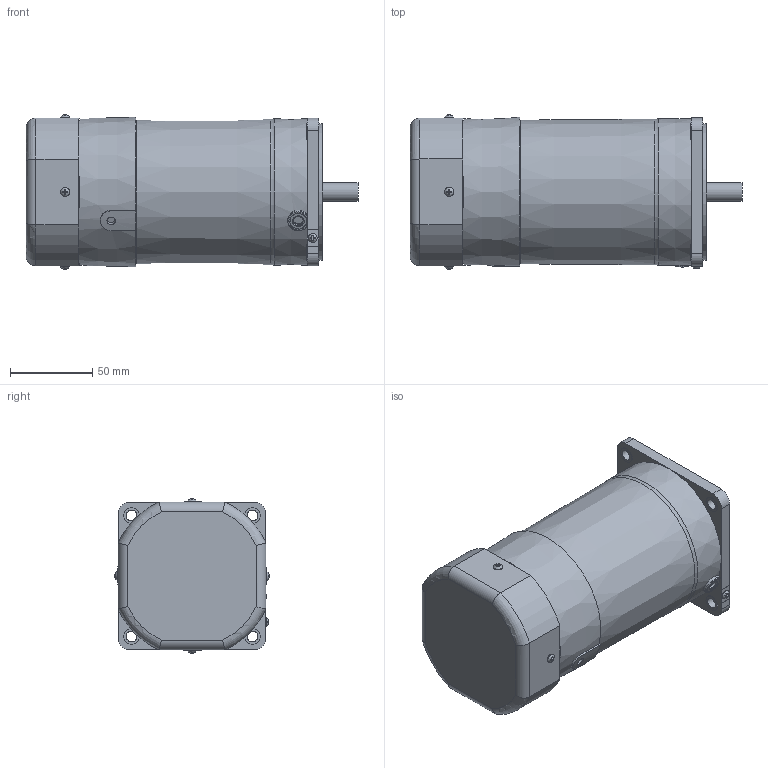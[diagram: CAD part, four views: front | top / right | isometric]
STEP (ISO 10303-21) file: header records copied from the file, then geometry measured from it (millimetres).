
FILE_DESCRIPTION(/* description */ (''),/* implementation_level */ '2;1');
FILE_NAME(/* name */ 'Y:\제품연구개발\4. 개발프로젝트\2. 프로젝트_제품군별\2. STANDARD AC\공유 (이현극)\AC 3D 파일 정리 및 검토\S9I150_-E\S9I150G_-E.stp',/* time_stamp */ '2024-01-03T09:29:33+09:00',/* author */ ('shyi1037'),/* organization */ (''),/* preprocessor_version */ 'ST-DEVELOPER v18.1',/* originating_system */ 'Autodesk Inventor 2022',/* authorisation */ '');
FILE_SCHEMA (('AUTOMOTIVE_DESIGN { 1 0 10303 214 3 1 1 }'));
Length unit declared in the file: millimetre
Products named in the file (1): S9I150G_-E
Bounding box: 202.1 x 93.89 x 93.89 mm (x, y, z)
Volume: 1140477.5 mm3; surface area: 74329.7 mm2
Topology: 1 solids, 6 shells, 242 faces, 610 edges, 401 vertices
Faces by surface type: plane 152, cylinder 61, torus 15, cone 8, bspline 5, sphere 1
Full cylindrical faces by diameter (mm): 3 x4, 3.5 x4, 5 x1, 5.6 x5, 6 x1, 6.5 x4, 9.5 x4, 10 x1, 11.47 x1, 40 x1, 83 x1, 86 x1
Entity records: 7903 total; most frequent: CARTESIAN_POINT 2053, ORIENTED_EDGE 1220, DIRECTION 1163, EDGE_CURVE 610, AXIS2_PLACEMENT_3D 411, VERTEX_POINT 401, LINE 341, VECTOR 341
